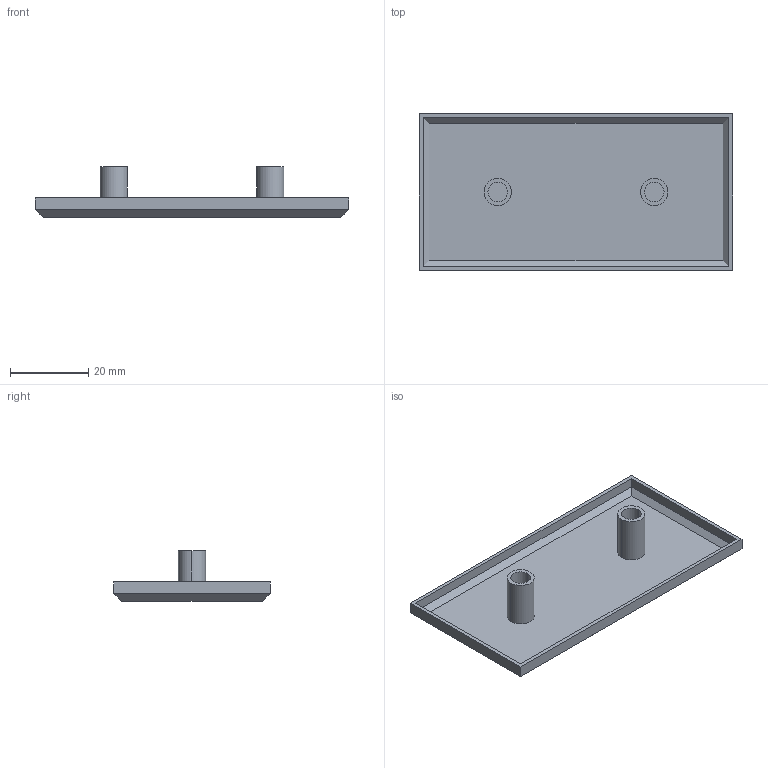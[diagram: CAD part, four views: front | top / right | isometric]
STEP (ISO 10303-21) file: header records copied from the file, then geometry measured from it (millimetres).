
FILE_DESCRIPTION (( 'STEP AP203' ), '1' );
FILE_NAME ('176-CE-CP-4080.STEP', '2015-07-09T09:15:41', ( '' ), ( '' ), 'SwSTEP 2.0', 'SolidWorks 2013', '' );
FILE_SCHEMA (( 'CONFIG_CONTROL_DESIGN' ));
Length unit declared in the file: millimetre
Products named in the file (1): 176-CE-CP-4080
Bounding box: 80 x 40 x 13 mm (x, y, z)
Volume: 4355.3 mm3; surface area: 8949.5 mm2
Topology: 1 solids, 1 shells, 31 faces, 64 edges, 40 vertices
Faces by surface type: plane 23, cylinder 8
Entity records: 887 total; most frequent: DIRECTION 144, CARTESIAN_POINT 136, ORIENTED_EDGE 128, EDGE_CURVE 64, LINE 48, AXIS2_PLACEMENT_3D 48, VECTOR 48, VERTEX_POINT 40
